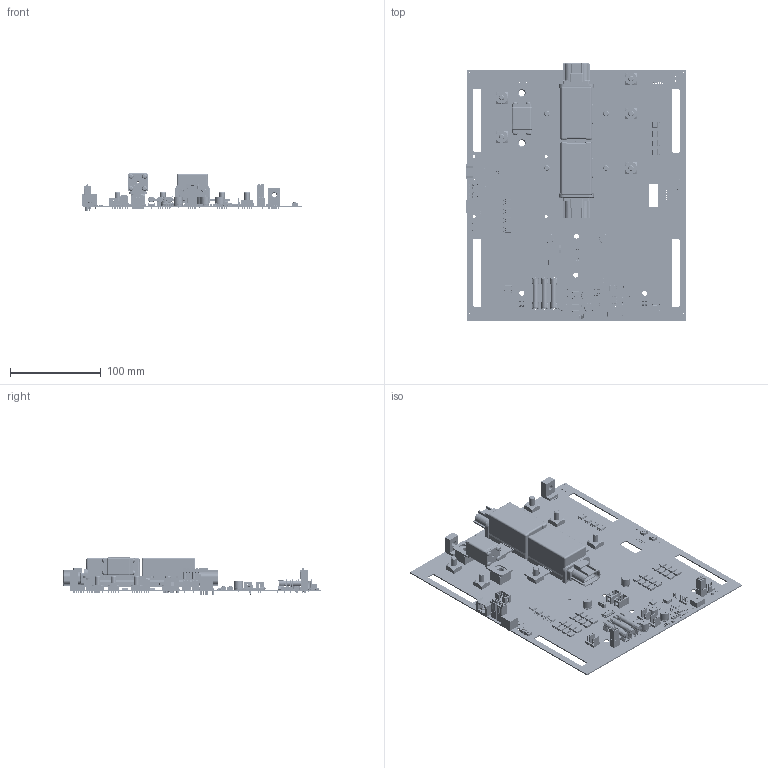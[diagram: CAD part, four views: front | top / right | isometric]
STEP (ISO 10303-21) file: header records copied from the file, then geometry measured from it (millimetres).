
FILE_DESCRIPTION(('KiCad electronic assembly'),'2;1');
FILE_NAME('PowerPro.step','2025-07-12T19:02:53',('Pcbnew'),('Kicad'), 'Open CASCADE STEP processor 7.9','KiCad to STEP converter','Unknown' );
FILE_SCHEMA(('AUTOMOTIVE_DESIGN { 1 0 10303 214 1 1 1 1 }'));
Length unit declared in the file: millimetre
Products named in the file (61): PowerPro 1; SO-4_4.4x4.3mm_P2.54mm; D_SMC; FanPinHeader_1x04_P2.54mm_Vertical; C_0603_1608Metric; IDC-Header_2x03_P2.54mm_Vertical; R_0603_1608Metric; 430152043826 (rev1); LED_0603_1608Metric; HSOP-8-1EP_3.9x4.9mm_P1.27mm_EP2.41x3.1mm; SOT-23; PhoenixContact_MCV_1,5_2-G-3.5_1x02_P3.50mm_Vertical; C_1210_3225Metric; R_1206_3216Metric; 7461098; SW_DIP_SPSTx05_Slide_6.7x14.26mm_W7.62mm_P2.54mm_LowProfile; ef3; A2225; BT2201; BT2202; SCREW3_5; Download_STEP_691304100002 (rev1); 691304100002; 691304100002_Bas; 6913041000xx_Levier; 6913041000xx_Pin; 6913041000xx_Lamelle; TO-252-2; PowerPro 1.36.1; Molex_KK-254_AE-6410-04A_1x04_P2.54mm_Vertical; 7461090; CP_Radial_D10.0mm_P5.00mm; Download_STP_WE-LQFS-4818 (rev1); 4818_74406042_Housing; 4818_74406042; 4818_74406042_Pads; Glue L; Glue R; User Library-Clips LF-102071 with fuse 6_3x32; LF 102071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
Assembly tree (236 placements, depth 3):
  PowerPro 1
    SO-4_4.4x4.3mm_P2.54mm  x2
    D_SMC  x32
    FanPinHeader_1x04_P2.54mm_Vertical
    C_0603_1608Metric  x19
    IDC-Header_2x03_P2.54mm_Vertical  x3
    R_0603_1608Metric  x41
    430152043826 (rev1)  x4
    LED_0603_1608Metric  x4
    HSOP-8-1EP_3.9x4.9mm_P1.27mm_EP2.41x3.1mm
    SOT-23  x12
    PhoenixContact_MCV_1,5_2-G-3.5_1x02_P3.50mm_Vertical  x4
    C_1210_3225Metric  x9
    R_1206_3216Metric  x2
    7461098  x9
    SW_DIP_SPSTx05_Slide_6.7x14.26mm_W7.62mm_P2.54mm_LowProfile
    ef3
      A2225
      BT2201  x2
      BT2202  x2
      SCREW3_5  x8
    Download_STEP_691304100002 (rev1)  x4
      691304100002
      691304100002_Bas
      6913041000xx_Levier
      6913041000xx_Pin
      6913041000xx_Lamelle
    TO-252-2  x8
      PowerPro 1.36.1
    Molex_KK-254_AE-6410-04A_1x04_P2.54mm_Vertical  x6
    7461090  x2
    CP_Radial_D10.0mm_P5.00mm  x5
    Download_STP_WE-LQFS-4818 (rev1)
      4818_74406042_Housing
      4818_74406042
      4818_74406042
      4818_74406042_Pads  x2
      Glue L
      Glue R
    User Library-Clips LF-102071 with fuse 6_3x32  x3
      LF 102071
      6,3x32
    LQFP-32_7x7mm_P0.8mm
    ws-sltv_450301014042 (rev1)
      cover
      slide
    7-1414778-3  x2
    74622106  x2
    MD-60SGK
      Body
      Leads  x9
    D_SOD-128
    RJ45_Amphenol_RJHSE538X
    D_SMB
    PinHeader_2x05_P1.27mm_Vertical_SMD
    D_MiniMELF  x2
    PinHeader_1x04_P2.54mm_Vertical
    CMI-1265-88-SMT-TR
    Nidec_Copal_SH-7010B
    SW_SPST_Omron_B3FS-100xP
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Bounding box: 241.94 x 282.5 x 40.8 mm (x, y, z)
Volume: 295198.8 mm3; surface area: 233836.7 mm2
Topology: 360 solids, 365 shells, 19525 faces, 48986 edges, 30639 vertices
Faces by surface type: plane 12766, cylinder 4095, bspline 2377, torus 105, cone 104, sphere 28, extrusion 26, revolution 24
Full cylindrical faces by diameter (mm): 0.1 x14, 0.3 x6, 0.5 x12, 0.6 x3, 0.7 x64, 0.8 x13, 0.89 x12, 1 x74, 1.02 x4, 1.1 x7, 1.19 x24, 1.2 x33, 1.35 x4, 1.4 x8, 1.45 x275, 1.475 x40, 1.57 x2, 1.9 x1, 1.98 x12, 2.109 x27, 3 x1, 3.2 x5, 3.25 x4, 3.3 x1, 3.5 x4, 4 x2, 4.917 x2, 5.5 x4, 6 x18, 6.647 x2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
Entity records: 223658 total; most frequent: CARTESIAN_POINT 44538, ORIENTED_EDGE 30805, DIRECTION 27865, EDGE_CURVE 15397, VECTOR 10879, LINE 10853, VERTEX_POINT 9812, AXIS2_PLACEMENT_3D 8490
